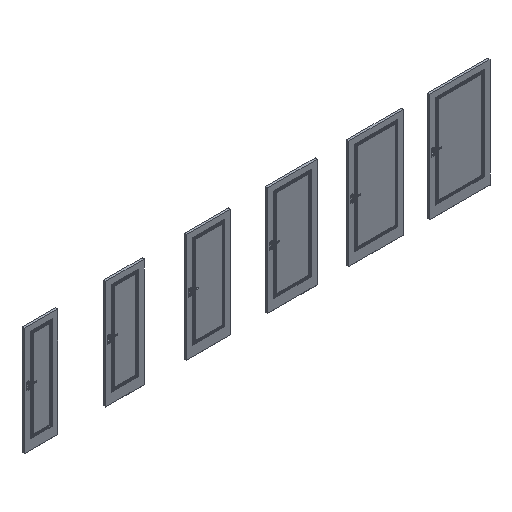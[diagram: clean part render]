
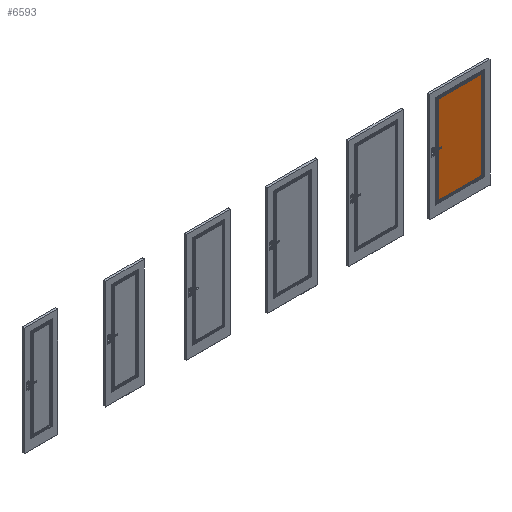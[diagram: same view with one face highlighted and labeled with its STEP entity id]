
A CAD part, isometric view. The second image highlights one B-rep face of the part: STEP entity #6593.
In plain terms, the highlighted planar face has unit normal (0, -1, 0).
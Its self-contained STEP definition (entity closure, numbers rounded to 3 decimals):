
#6593=ADVANCED_FACE('',(#9845),#7609,.F.);
#7609=PLANE('',#41054);
#9845=FACE_OUTER_BOUND('',#12485,.T.);
#12485=EDGE_LOOP('',(#22854,#22855,#22856,#22857));
#22854=ORIENTED_EDGE('',*,*,#31848,.T.);
#22855=ORIENTED_EDGE('',*,*,#31849,.T.);
#22856=ORIENTED_EDGE('',*,*,#31843,.T.);
#22857=ORIENTED_EDGE('',*,*,#31846,.T.);
#26538=VERTEX_POINT('',#72966);
#26539=VERTEX_POINT('',#72968);
#26540=VERTEX_POINT('',#72972);
#26541=VERTEX_POINT('',#72976);
#31843=EDGE_CURVE('',#26539,#26538,#35443,.T.);
#31846=EDGE_CURVE('',#26538,#26540,#35446,.T.);
#31848=EDGE_CURVE('',#26540,#26541,#35448,.T.);
#31849=EDGE_CURVE('',#26541,#26539,#35449,.T.);
#35443=LINE('',#72967,#38863);
#35446=LINE('',#72973,#38866);
#35448=LINE('',#72977,#38868);
#35449=LINE('',#72979,#38869);
#38863=VECTOR('',#48532,1.);
#38866=VECTOR('',#48537,1.);
#38868=VECTOR('',#48541,1.);
#38869=VECTOR('',#48544,1.);
#41054=AXIS2_PLACEMENT_3D('',#72981,#48547,#48548);
#48532=DIRECTION('',(0.,0.,-1.));
#48537=DIRECTION('',(1.,0.,0.));
#48541=DIRECTION('',(0.,0.,1.));
#48544=DIRECTION('',(-1.,0.,0.));
#48547=DIRECTION('',(0.,1.,0.));
#48548=DIRECTION('',(-1.,0.,0.));
#72966=CARTESIAN_POINT('',(7349.15,-39.3,236.15));
#72967=CARTESIAN_POINT('',(7349.15,-39.3,1047.5));
#72968=CARTESIAN_POINT('',(7349.15,-39.3,1858.85));
#72972=CARTESIAN_POINT('',(8150.85,-39.3,236.15));
#72973=CARTESIAN_POINT('',(7750.,-39.3,236.15));
#72976=CARTESIAN_POINT('',(8150.85,-39.3,1858.85));
#72977=CARTESIAN_POINT('',(8150.85,-39.3,1047.5));
#72979=CARTESIAN_POINT('',(7549.575,-39.3,1858.85));
#72981=CARTESIAN_POINT('',(7636.884,-39.3,2017.));
